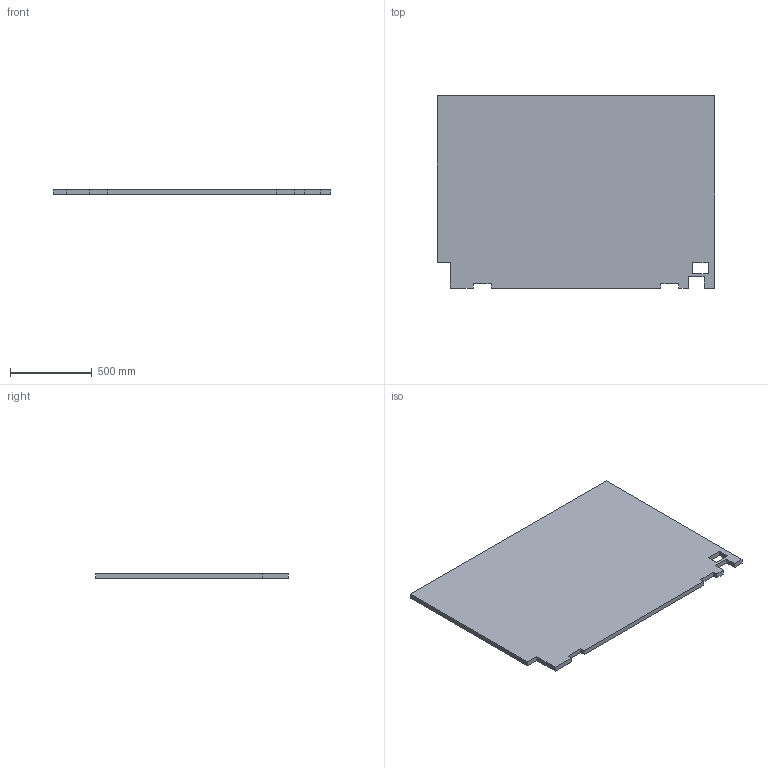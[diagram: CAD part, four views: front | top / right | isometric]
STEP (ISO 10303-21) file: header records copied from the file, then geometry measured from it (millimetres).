
FILE_DESCRIPTION(('Open CASCADE Model'),'2;1');
FILE_NAME('Open CASCADE Shape Model','2026-10-19T10:09:27',('Author'),( 'Open CASCADE'),'Open CASCADE STEP processor 8.0','Open CASCADE 8.0' ,'Unknown');
FILE_SCHEMA(('AUTOMOTIVE_DESIGN { 1 0 10303 214 1 1 1 1 }'));
Length unit declared in the file: millimetre
Products named in the file (1): PLATAFORMA_REJILLA_1700x1190x30_REF 172
Bounding box: 1700 x 1179 x 30 mm (x, y, z)
Volume: 59164127.8 mm3; surface area: 4134436.1 mm2
Topology: 1 solids, 1 shells, 24 faces, 66 edges, 44 vertices
Faces by surface type: plane 24
Entity records: 1528 total; most frequent: CARTESIAN_POINT 361, DIRECTION 154, ORIENTED_EDGE 132, PCURVE 132, DEFINITIONAL_REPRESENTATION 132, LINE 104, VECTOR 104, B_SPLINE_CURVE_WITH_KNOTS 94
